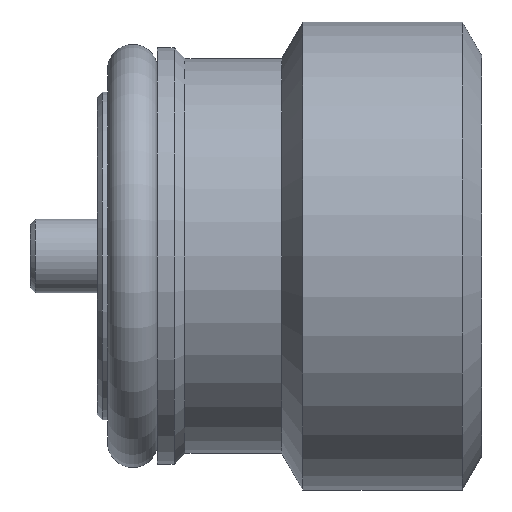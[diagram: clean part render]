
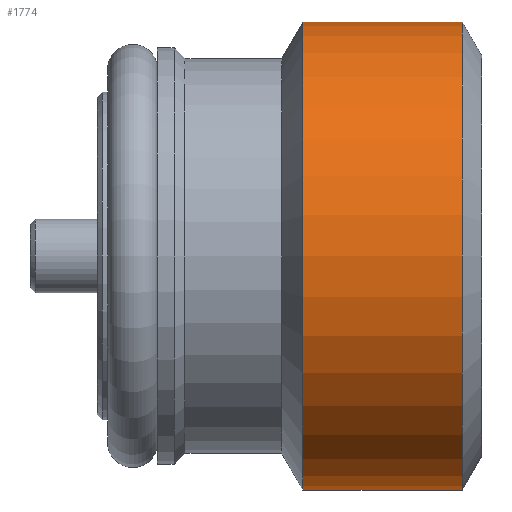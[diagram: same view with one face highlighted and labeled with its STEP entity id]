
A CAD part, front view. The second image highlights one B-rep face of the part: STEP entity #1774.
In plain terms, the highlighted cylindrical face has radius 7 mm (diameter 14 mm), a partial arc.
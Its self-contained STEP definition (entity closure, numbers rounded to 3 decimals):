
#17 = CARTESIAN_POINT ( 'NONE',  ( -5.35, 0., 0. ) ) ;
#43 = ORIENTED_EDGE ( 'NONE', *, *, #213, .F. ) ;
#60 = LINE ( 'NONE', #647, #1589 ) ;
#117 = DIRECTION ( 'NONE',  ( -1., 0., 0. ) ) ;
#213 = EDGE_CURVE ( 'NONE', #1677, #1623, #1326, .T. ) ;
#423 = AXIS2_PLACEMENT_3D ( 'NONE', #17, #1778, #1468 ) ;
#428 = CARTESIAN_POINT ( 'NONE',  ( -5.35, 0., -7. ) ) ;
#459 = EDGE_CURVE ( 'NONE', #1677, #899, #549, .T. ) ;
#549 = CIRCLE ( 'NONE', #423, 7. ) ;
#647 = CARTESIAN_POINT ( 'NONE',  ( 0., 0., -7. ) ) ;
#654 = DIRECTION ( 'NONE',  ( 1., 0., 0. ) ) ;
#668 = DIRECTION ( 'NONE',  ( 1., 0., 0. ) ) ;
#822 = EDGE_CURVE ( 'NONE', #899, #1716, #60, .T. ) ;
#844 = EDGE_LOOP ( 'NONE', ( #43, #1724, #1486, #1108 ) ) ;
#899 = VERTEX_POINT ( 'NONE', #428 ) ;
#929 = VECTOR ( 'NONE', #1524, 1000. ) ;
#1022 = CARTESIAN_POINT ( 'NONE',  ( -0.577, 0., 0. ) ) ;
#1108 = ORIENTED_EDGE ( 'NONE', *, *, #1367, .T. ) ;
#1129 = CYLINDRICAL_SURFACE ( 'NONE', #1520, 7. ) ;
#1177 = DIRECTION ( 'NONE',  ( 0., 0., -1. ) ) ;
#1236 = CARTESIAN_POINT ( 'NONE',  ( -0.577, 0., 7. ) ) ;
#1252 = CARTESIAN_POINT ( 'NONE',  ( -5.35, 0., 7. ) ) ;
#1282 = DIRECTION ( 'NONE',  ( 0., 0., -1. ) ) ;
#1291 = AXIS2_PLACEMENT_3D ( 'NONE', #1022, #117, #1177 ) ;
#1326 = LINE ( 'NONE', #1656, #929 ) ;
#1354 = FACE_OUTER_BOUND ( 'NONE', #844, .T. ) ;
#1367 = EDGE_CURVE ( 'NONE', #1716, #1623, #1648, .T. ) ;
#1468 = DIRECTION ( 'NONE',  ( 0., 0., -1. ) ) ;
#1486 = ORIENTED_EDGE ( 'NONE', *, *, #822, .T. ) ;
#1520 = AXIS2_PLACEMENT_3D ( 'NONE', #1549, #668, #1282 ) ;
#1524 = DIRECTION ( 'NONE',  ( 1., 0., 0. ) ) ;
#1549 = CARTESIAN_POINT ( 'NONE',  ( 0., 0., 0. ) ) ;
#1589 = VECTOR ( 'NONE', #654, 1000. ) ;
#1623 = VERTEX_POINT ( 'NONE', #1236 ) ;
#1648 = CIRCLE ( 'NONE', #1291, 7. ) ;
#1656 = CARTESIAN_POINT ( 'NONE',  ( 0., 0., 7. ) ) ;
#1667 = CARTESIAN_POINT ( 'NONE',  ( -0.577, 0., -7. ) ) ;
#1677 = VERTEX_POINT ( 'NONE', #1252 ) ;
#1716 = VERTEX_POINT ( 'NONE', #1667 ) ;
#1724 = ORIENTED_EDGE ( 'NONE', *, *, #459, .T. ) ;
#1774 = ADVANCED_FACE ( 'NONE', ( #1354 ), #1129, .T. ) ;
#1778 = DIRECTION ( 'NONE',  ( 1., 0., 0. ) ) ;
